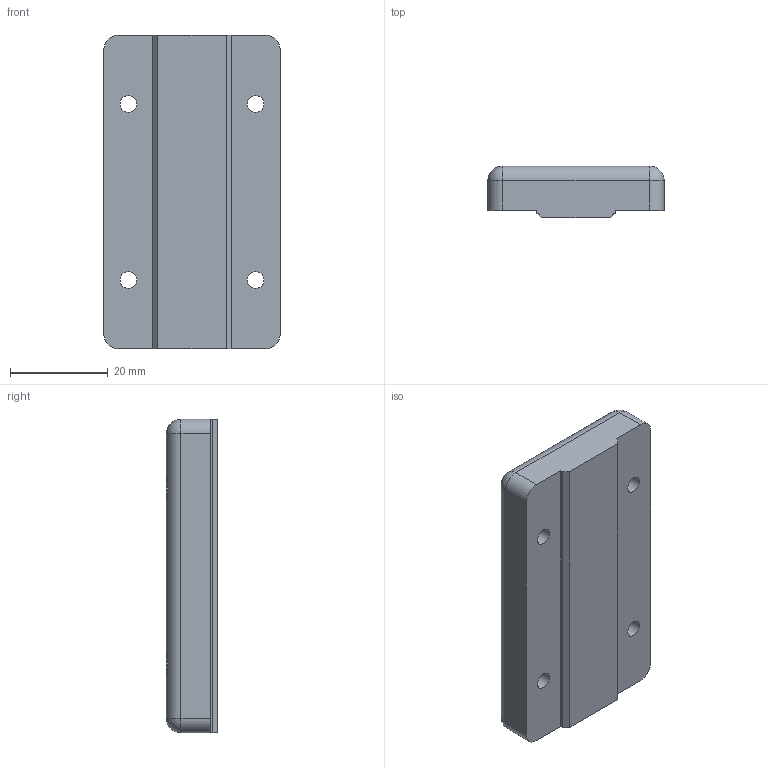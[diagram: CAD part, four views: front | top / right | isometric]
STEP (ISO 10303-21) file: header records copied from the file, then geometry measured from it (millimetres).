
FILE_DESCRIPTION(/* description */ (''),/* implementation_level */ '2;1');
FILE_NAME(/* name */ '',/* time_stamp */ '2025-06-11T17:31:59+09:00',/* author */ ('jhkim'),/* organization */ (''),/* preprocessor_version */ 'ST-DEVELOPER v20.1',/* originating_system */ 'Autodesk Inventor 2026',/* authorisation */ '');
FILE_SCHEMA (('AUTOMOTIVE_DESIGN { 1 0 10303 214 3 1 1 }'));
Length unit declared in the file: millimetre
Products named in the file (1): 슬라이더 커버
Bounding box: 36 x 10.5 x 64 mm (x, y, z)
Volume: 21126.4 mm3; surface area: 6691.1 mm2
Topology: 1 solids, 1 shells, 36 faces, 90 edges, 56 vertices
Faces by surface type: plane 16, cylinder 16, sphere 4
Full cylindrical faces by diameter (mm): 3.4 x4, 6.5 x4
Entity records: 1157 total; most frequent: CARTESIAN_POINT 221, DIRECTION 192, ORIENTED_EDGE 180, EDGE_CURVE 90, AXIS2_PLACEMENT_3D 71, VERTEX_POINT 56, LINE 50, VECTOR 50
